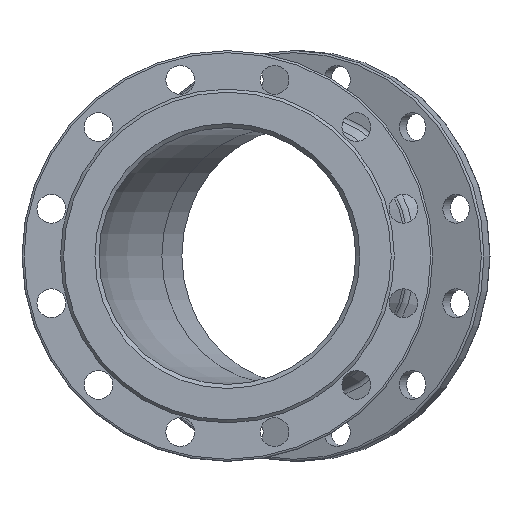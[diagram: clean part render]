
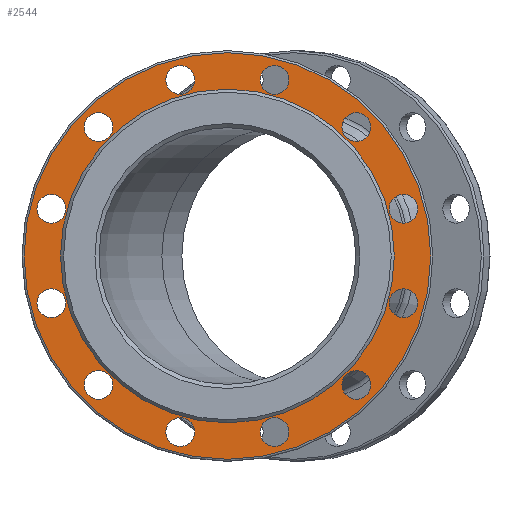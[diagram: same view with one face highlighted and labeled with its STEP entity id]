
A CAD part, left-side view. The second image highlights one B-rep face of the part: STEP entity #2544.
In plain terms, the highlighted planar face has unit normal (-1, 0, 0).
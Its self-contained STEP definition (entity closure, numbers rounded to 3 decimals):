
#45 = CIRCLE ( 'NONE', #2362, 14. ) ;
#47 = DIRECTION ( 'NONE',  ( -1., 0., 0. ) ) ;
#60 = DIRECTION ( 'NONE',  ( 0., 0., -1. ) ) ;
#61 = CARTESIAN_POINT ( 'NONE',  ( 3., -45.94, -171.452 ) ) ;
#89 = AXIS2_PLACEMENT_3D ( 'NONE', #61, #1807, #2014 ) ;
#145 = VERTEX_POINT ( 'NONE', #2603 ) ;
#154 = FACE_BOUND ( 'NONE', #2570, .T. ) ;
#158 = VERTEX_POINT ( 'NONE', #758 ) ;
#176 = EDGE_CURVE ( 'NONE', #284, #284, #1390, .T. ) ;
#226 = CARTESIAN_POINT ( 'NONE',  ( 3., -171.452, -59.94 ) ) ;
#270 = VERTEX_POINT ( 'NONE', #2528 ) ;
#273 = AXIS2_PLACEMENT_3D ( 'NONE', #2306, #1860, #2067 ) ;
#284 = VERTEX_POINT ( 'NONE', #948 ) ;
#288 = ORIENTED_EDGE ( 'NONE', *, *, #894, .F. ) ;
#319 = ORIENTED_EDGE ( 'NONE', *, *, #2857, .F. ) ;
#342 = CARTESIAN_POINT ( 'NONE',  ( 3., 0., -198. ) ) ;
#372 = FACE_BOUND ( 'NONE', #1928, .T. ) ;
#395 = CARTESIAN_POINT ( 'NONE',  ( 3., 45.94, 171.452 ) ) ;
#407 = AXIS2_PLACEMENT_3D ( 'NONE', #937, #2251, #60 ) ;
#413 = ORIENTED_EDGE ( 'NONE', *, *, #1602, .F. ) ;
#441 = EDGE_LOOP ( 'NONE', ( #413 ) ) ;
#448 = CARTESIAN_POINT ( 'NONE',  ( 3., 125.511, -139.511 ) ) ;
#495 = EDGE_CURVE ( 'NONE', #270, #270, #1642, .T. ) ;
#530 = EDGE_LOOP ( 'NONE', ( #2126 ) ) ;
#547 = ORIENTED_EDGE ( 'NONE', *, *, #2538, .F. ) ;
#560 = CARTESIAN_POINT ( 'NONE',  ( 3., -171.452, -45.94 ) ) ;
#600 = AXIS2_PLACEMENT_3D ( 'NONE', #2650, #1789, #2411 ) ;
#604 = PLANE ( 'NONE',  #1653 ) ;
#608 = CARTESIAN_POINT ( 'NONE',  ( 3., 0., 162.5 ) ) ;
#628 = ORIENTED_EDGE ( 'NONE', *, *, #2807, .F. ) ;
#640 = AXIS2_PLACEMENT_3D ( 'NONE', #1293, #808, #1499 ) ;
#643 = EDGE_LOOP ( 'NONE', ( #2612 ) ) ;
#661 = VERTEX_POINT ( 'NONE', #1332 ) ;
#691 = AXIS2_PLACEMENT_3D ( 'NONE', #2341, #1946, #2841 ) ;
#758 = CARTESIAN_POINT ( 'NONE',  ( 3., -45.94, -185.452 ) ) ;
#796 = FACE_OUTER_BOUND ( 'NONE', #927, .T. ) ;
#808 = DIRECTION ( 'NONE',  ( -1., 0., 0. ) ) ;
#811 = FACE_BOUND ( 'NONE', #2568, .T. ) ;
#814 = VERTEX_POINT ( 'NONE', #342 ) ;
#857 = DIRECTION ( 'NONE',  ( 0., 0., -1. ) ) ;
#874 = CARTESIAN_POINT ( 'NONE',  ( 3., -45.94, 157.452 ) ) ;
#876 = EDGE_CURVE ( 'NONE', #1464, #1464, #1981, .T. ) ;
#890 = AXIS2_PLACEMENT_3D ( 'NONE', #1240, #1223, #2134 ) ;
#894 = EDGE_CURVE ( 'NONE', #145, #145, #2775, .T. ) ;
#916 = CIRCLE ( 'NONE', #691, 14. ) ;
#919 = CIRCLE ( 'NONE', #600, 14. ) ;
#927 = EDGE_LOOP ( 'NONE', ( #2615 ) ) ;
#937 = CARTESIAN_POINT ( 'NONE',  ( 3., 171.452, 45.94 ) ) ;
#943 = ORIENTED_EDGE ( 'NONE', *, *, #176, .F. ) ;
#948 = CARTESIAN_POINT ( 'NONE',  ( 3., -125.511, -139.511 ) ) ;
#957 = AXIS2_PLACEMENT_3D ( 'NONE', #395, #1454, #1024 ) ;
#1014 = CARTESIAN_POINT ( 'NONE',  ( 3., -125.511, 125.511 ) ) ;
#1024 = DIRECTION ( 'NONE',  ( 0., 0., -1. ) ) ;
#1027 = FACE_BOUND ( 'NONE', #1560, .T. ) ;
#1032 = EDGE_CURVE ( 'NONE', #1415, #1415, #1600, .T. ) ;
#1068 = EDGE_CURVE ( 'NONE', #158, #158, #2093, .T. ) ;
#1086 = CARTESIAN_POINT ( 'NONE',  ( 3., -171.452, 31.94 ) ) ;
#1100 = VERTEX_POINT ( 'NONE', #1086 ) ;
#1107 = CARTESIAN_POINT ( 'NONE',  ( 3., 0., 0. ) ) ;
#1179 = DIRECTION ( 'NONE',  ( 0., 0., -1. ) ) ;
#1189 = CARTESIAN_POINT ( 'NONE',  ( 3., 162.5, 0. ) ) ;
#1203 = EDGE_LOOP ( 'NONE', ( #319 ) ) ;
#1223 = DIRECTION ( 'NONE',  ( -1., 0., 0. ) ) ;
#1230 = DIRECTION ( 'NONE',  ( -1., 0., 0. ) ) ;
#1240 = CARTESIAN_POINT ( 'NONE',  ( 3., -125.511, -125.511 ) ) ;
#1244 = FACE_BOUND ( 'NONE', #1203, .T. ) ;
#1293 = CARTESIAN_POINT ( 'NONE',  ( 3., 171.452, -45.94 ) ) ;
#1325 = AXIS2_PLACEMENT_3D ( 'NONE', #560, #1230, #1870 ) ;
#1332 = CARTESIAN_POINT ( 'NONE',  ( 3., 45.94, -185.452 ) ) ;
#1356 = EDGE_CURVE ( 'NONE', #814, #814, #2602, .T. ) ;
#1386 = CARTESIAN_POINT ( 'NONE',  ( 3., 125.511, -125.511 ) ) ;
#1390 = CIRCLE ( 'NONE', #890, 14. ) ;
#1415 = VERTEX_POINT ( 'NONE', #608 ) ;
#1436 = EDGE_CURVE ( 'NONE', #1702, #1702, #1659, .T. ) ;
#1454 = DIRECTION ( 'NONE',  ( -1., 0., 0. ) ) ;
#1459 = FACE_BOUND ( 'NONE', #2754, .T. ) ;
#1464 = VERTEX_POINT ( 'NONE', #2363 ) ;
#1499 = DIRECTION ( 'NONE',  ( 0., 0., -1. ) ) ;
#1552 = VERTEX_POINT ( 'NONE', #226 ) ;
#1560 = EDGE_LOOP ( 'NONE', ( #1727 ) ) ;
#1589 = DIRECTION ( 'NONE',  ( 0., 0., 1. ) ) ;
#1600 = CIRCLE ( 'NONE', #1973, 162.5 ) ;
#1602 = EDGE_CURVE ( 'NONE', #2805, #2805, #2407, .T. ) ;
#1635 = DIRECTION ( 'NONE',  ( 0., 0., -1. ) ) ;
#1642 = CIRCLE ( 'NONE', #407, 14. ) ;
#1653 = AXIS2_PLACEMENT_3D ( 'NONE', #1189, #1858, #1635 ) ;
#1659 = CIRCLE ( 'NONE', #273, 14. ) ;
#1683 = FACE_BOUND ( 'NONE', #530, .T. ) ;
#1702 = VERTEX_POINT ( 'NONE', #1933 ) ;
#1723 = EDGE_LOOP ( 'NONE', ( #943 ) ) ;
#1727 = ORIENTED_EDGE ( 'NONE', *, *, #1068, .F. ) ;
#1789 = DIRECTION ( 'NONE',  ( -1., 0., 0. ) ) ;
#1807 = DIRECTION ( 'NONE',  ( -1., 0., 0. ) ) ;
#1857 = ORIENTED_EDGE ( 'NONE', *, *, #2263, .F. ) ;
#1858 = DIRECTION ( 'NONE',  ( 1., 0., 0. ) ) ;
#1860 = DIRECTION ( 'NONE',  ( -1., 0., 0. ) ) ;
#1870 = DIRECTION ( 'NONE',  ( 0., 0., -1. ) ) ;
#1898 = EDGE_LOOP ( 'NONE', ( #628 ) ) ;
#1914 = FACE_BOUND ( 'NONE', #1723, .T. ) ;
#1928 = EDGE_LOOP ( 'NONE', ( #288 ) ) ;
#1933 = CARTESIAN_POINT ( 'NONE',  ( 3., 125.511, 111.511 ) ) ;
#1938 = CIRCLE ( 'NONE', #2276, 14. ) ;
#1939 = AXIS2_PLACEMENT_3D ( 'NONE', #2686, #2049, #2523 ) ;
#1943 = AXIS2_PLACEMENT_3D ( 'NONE', #1014, #2616, #857 ) ;
#1946 = DIRECTION ( 'NONE',  ( -1., 0., 0. ) ) ;
#1973 = AXIS2_PLACEMENT_3D ( 'NONE', #1107, #47, #1589 ) ;
#1981 = CIRCLE ( 'NONE', #957, 14. ) ;
#1995 = VERTEX_POINT ( 'NONE', #448 ) ;
#2014 = DIRECTION ( 'NONE',  ( 0., 0., -1. ) ) ;
#2049 = DIRECTION ( 'NONE',  ( -1., 0., 0. ) ) ;
#2067 = DIRECTION ( 'NONE',  ( 0., 0., -1. ) ) ;
#2093 = CIRCLE ( 'NONE', #89, 14. ) ;
#2125 = FACE_BOUND ( 'NONE', #2513, .T. ) ;
#2126 = ORIENTED_EDGE ( 'NONE', *, *, #876, .F. ) ;
#2128 = CIRCLE ( 'NONE', #1325, 14. ) ;
#2134 = DIRECTION ( 'NONE',  ( 0., 0., -1. ) ) ;
#2155 = CARTESIAN_POINT ( 'NONE',  ( 3., -125.511, 111.511 ) ) ;
#2180 = ORIENTED_EDGE ( 'NONE', *, *, #1436, .F. ) ;
#2251 = DIRECTION ( 'NONE',  ( -1., 0., 0. ) ) ;
#2263 = EDGE_CURVE ( 'NONE', #661, #661, #916, .T. ) ;
#2276 = AXIS2_PLACEMENT_3D ( 'NONE', #1386, #2295, #1179 ) ;
#2295 = DIRECTION ( 'NONE',  ( -1., 0., 0. ) ) ;
#2306 = CARTESIAN_POINT ( 'NONE',  ( 3., 125.511, 125.511 ) ) ;
#2341 = CARTESIAN_POINT ( 'NONE',  ( 3., 45.94, -171.452 ) ) ;
#2351 = CARTESIAN_POINT ( 'NONE',  ( 3., -171.452, 45.94 ) ) ;
#2362 = AXIS2_PLACEMENT_3D ( 'NONE', #2351, #2821, #2589 ) ;
#2363 = CARTESIAN_POINT ( 'NONE',  ( 3., 45.94, 157.452 ) ) ;
#2374 = FACE_BOUND ( 'NONE', #643, .T. ) ;
#2407 = CIRCLE ( 'NONE', #1943, 14. ) ;
#2411 = DIRECTION ( 'NONE',  ( 0., 0., -1. ) ) ;
#2513 = EDGE_LOOP ( 'NONE', ( #2765 ) ) ;
#2523 = DIRECTION ( 'NONE',  ( 0., 0., -1. ) ) ;
#2528 = CARTESIAN_POINT ( 'NONE',  ( 3., 171.452, 31.94 ) ) ;
#2538 = EDGE_CURVE ( 'NONE', #1552, #1552, #2128, .T. ) ;
#2544 = ADVANCED_FACE ( 'NONE', ( #796, #2125, #1683, #1459, #2374, #372, #1244, #154, #1027, #1914, #2816, #811, #2598, #2766 ), #604, .F. ) ;
#2568 = EDGE_LOOP ( 'NONE', ( #2859 ) ) ;
#2570 = EDGE_LOOP ( 'NONE', ( #1857 ) ) ;
#2589 = DIRECTION ( 'NONE',  ( 0., 0., -1. ) ) ;
#2598 = FACE_BOUND ( 'NONE', #441, .T. ) ;
#2602 = CIRCLE ( 'NONE', #1939, 198. ) ;
#2603 = CARTESIAN_POINT ( 'NONE',  ( 3., 171.452, -59.94 ) ) ;
#2612 = ORIENTED_EDGE ( 'NONE', *, *, #495, .F. ) ;
#2613 = EDGE_CURVE ( 'NONE', #1100, #1100, #45, .T. ) ;
#2615 = ORIENTED_EDGE ( 'NONE', *, *, #1356, .T. ) ;
#2616 = DIRECTION ( 'NONE',  ( -1., 0., 0. ) ) ;
#2650 = CARTESIAN_POINT ( 'NONE',  ( 3., -45.94, 171.452 ) ) ;
#2675 = VERTEX_POINT ( 'NONE', #874 ) ;
#2676 = EDGE_LOOP ( 'NONE', ( #547 ) ) ;
#2686 = CARTESIAN_POINT ( 'NONE',  ( 3., 0., 0. ) ) ;
#2754 = EDGE_LOOP ( 'NONE', ( #2180 ) ) ;
#2765 = ORIENTED_EDGE ( 'NONE', *, *, #1032, .F. ) ;
#2766 = FACE_BOUND ( 'NONE', #1898, .T. ) ;
#2775 = CIRCLE ( 'NONE', #640, 14. ) ;
#2805 = VERTEX_POINT ( 'NONE', #2155 ) ;
#2807 = EDGE_CURVE ( 'NONE', #2675, #2675, #919, .T. ) ;
#2816 = FACE_BOUND ( 'NONE', #2676, .T. ) ;
#2821 = DIRECTION ( 'NONE',  ( -1., 0., 0. ) ) ;
#2841 = DIRECTION ( 'NONE',  ( 0., 0., -1. ) ) ;
#2857 = EDGE_CURVE ( 'NONE', #1995, #1995, #1938, .T. ) ;
#2859 = ORIENTED_EDGE ( 'NONE', *, *, #2613, .F. ) ;
